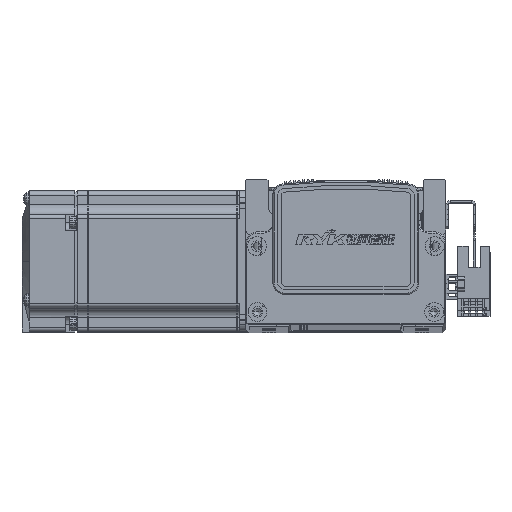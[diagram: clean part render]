
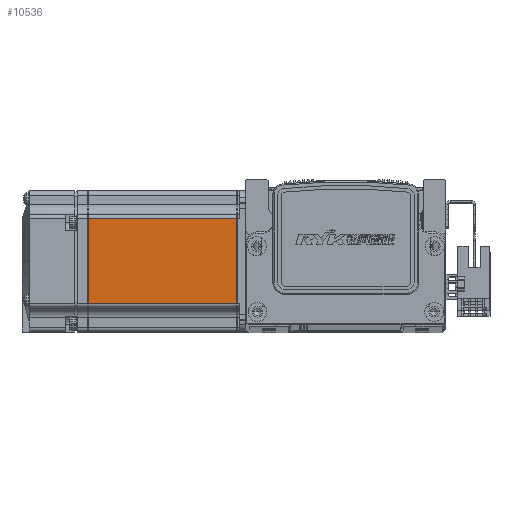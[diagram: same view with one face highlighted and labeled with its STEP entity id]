
A CAD part, top view. The second image highlights one B-rep face of the part: STEP entity #10536.
In plain terms, the highlighted planar face has unit normal (0, 0, 1) as drawn and (0, 0, -1) by its records, which use the part's own axes.
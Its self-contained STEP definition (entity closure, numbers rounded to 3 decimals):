
#7655 = LINE ( 'NONE', #32898, #7686 ) ;
#7686 = VECTOR ( 'NONE', #32901, 1000. ) ;
#7718 = LINE ( 'NONE', #32940, #7750 ) ;
#7728 = LINE ( 'NONE', #33019, #7791 ) ;
#7750 = VECTOR ( 'NONE', #32950, 1000. ) ;
#7791 = VECTOR ( 'NONE', #33023, 1000. ) ;
#7793 = LINE ( 'NONE', #33014, #7833 ) ;
#7833 = VECTOR ( 'NONE', #33041, 1000. ) ;
#10536 = ADVANCED_FACE ( 'NONE', ( #73930 ), #45550, .T. ) ;
#20592 = VERTEX_POINT ( 'NONE', #60044 ) ;
#20614 = VERTEX_POINT ( 'NONE', #60110 ) ;
#20643 = VERTEX_POINT ( 'NONE', #60046 ) ;
#20662 = VERTEX_POINT ( 'NONE', #60092 ) ;
#32898 = CARTESIAN_POINT ( 'NONE',  ( -70.95, 25., -30. ) ) ;
#32901 = DIRECTION ( 'NONE',  ( 0., 1., 0. ) ) ;
#32940 = CARTESIAN_POINT ( 'NONE',  ( -6.5, 18., -30. ) ) ;
#32950 = DIRECTION ( 'NONE',  ( 1., 0., 0. ) ) ;
#33014 = CARTESIAN_POINT ( 'NONE',  ( -6.5, -18., -30. ) ) ;
#33019 = CARTESIAN_POINT ( 'NONE',  ( -7.75, 25., -30. ) ) ;
#33023 = DIRECTION ( 'NONE',  ( 0., -1., 0. ) ) ;
#33041 = DIRECTION ( 'NONE',  ( -1., 0., 0. ) ) ;
#40725 = EDGE_LOOP ( 'NONE', ( #76106, #76108, #76004, #75928 ) ) ;
#45455 = EDGE_CURVE ( 'NONE', #20592, #20643, #7655, .T. ) ;
#45504 = DIRECTION ( 'NONE',  ( 0., 0., -1. ) ) ;
#45509 = DIRECTION ( 'NONE',  ( -1., 0., 0. ) ) ;
#45511 = EDGE_CURVE ( 'NONE', #20643, #20662, #7718, .T. ) ;
#45550 = PLANE ( 'NONE',  #70762 ) ;
#45554 = CARTESIAN_POINT ( 'NONE',  ( -6.5, 25., -30. ) ) ;
#45566 = EDGE_CURVE ( 'NONE', #20662, #20614, #7728, .T. ) ;
#45570 = EDGE_CURVE ( 'NONE', #20614, #20592, #7793, .T. ) ;
#60044 = CARTESIAN_POINT ( 'NONE',  ( -70.95, -18., -30. ) ) ;
#60046 = CARTESIAN_POINT ( 'NONE',  ( -70.95, 18., -30. ) ) ;
#60092 = CARTESIAN_POINT ( 'NONE',  ( -7.75, 18., -30. ) ) ;
#60110 = CARTESIAN_POINT ( 'NONE',  ( -7.75, -18., -30. ) ) ;
#70762 = AXIS2_PLACEMENT_3D ( 'NONE', #45554, #45504, #45509 ) ;
#73930 = FACE_OUTER_BOUND ( 'NONE', #40725, .T. ) ;
#75928 = ORIENTED_EDGE ( 'NONE', *, *, #45511, .T. ) ;
#76004 = ORIENTED_EDGE ( 'NONE', *, *, #45455, .T. ) ;
#76106 = ORIENTED_EDGE ( 'NONE', *, *, #45566, .T. ) ;
#76108 = ORIENTED_EDGE ( 'NONE', *, *, #45570, .T. ) ;
